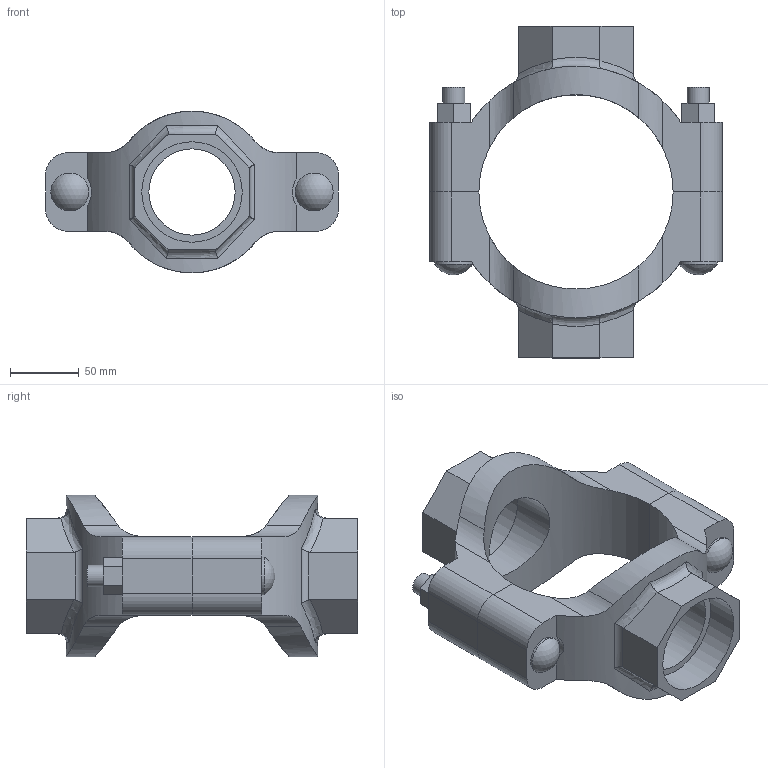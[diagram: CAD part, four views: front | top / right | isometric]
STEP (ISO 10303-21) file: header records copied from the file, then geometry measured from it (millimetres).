
FILE_DESCRIPTION(/* description */ ('VIC MECH-T BRANCH OUTLET CROSS STYLE 920N (THD)','CAx-IF Rec.Pracs.---Representation and Presentation of Product Manufacturing Information (PMI)---4.0---2014-10-13'),/* implementation_level */ '2;1');
FILE_NAME(/* name */ 'C:\Users\Vjadhav\AppData\Roaming\Autodesk\ApplicationPlugins\Back Up\Victaulic_IPS_Mechanical-Cross Outlet_Style 920N (FPT)\Victaulic_IPS_Mechanical-Cross Outlet_05.0x02.5x02.5 (125x65x65).stp',/* time_stamp */ '2020-08-06T18:59:15+05:00',/* author */ ('Vjadhav'),/* organization */ ('Victaulic'),/* preprocessor_version */ 'ST-DEVELOPER v17.2',/* originating_system */ 'Autodesk Inventor 2019',/* authorisation */ '');
FILE_SCHEMA (('AP242_MANAGED_MODEL_BASED_3D_ENGINEERING_MIM_LF { 1 0 10303 442 1 1 4 }'));
Length unit declared in the file: inch
Products named in the file (3): 920NT-05.0x02.5x02.5; 920T-05.0x02.5; 920T-05.0x02.5_1
Assembly tree (2 placements, depth 2):
  920NT-05.0x02.5x02.5
    920T-05.0x02.5
    920T-05.0x02.5_1
Bounding box: 212.85 x 241.3 x 117.56 mm (x, y, z)
Volume: 1015217.4 mm3; surface area: 175023.7 mm2
Topology: 2 solids, 2 shells, 132 faces, 350 edges, 236 vertices
Faces by surface type: plane 68, cylinder 50, bspline 8, torus 4, sphere 2
Full cylindrical faces by diameter (mm): 15.875 x4, 27.496 x2, 62.738 x2, 73.025 x2
Entity records: 5286 total; most frequent: CARTESIAN_POINT 1773, ORIENTED_EDGE 700, DIRECTION 648, EDGE_CURVE 350, VERTEX_POINT 236, AXIS2_PLACEMENT_3D 231, LINE 186, VECTOR 186
